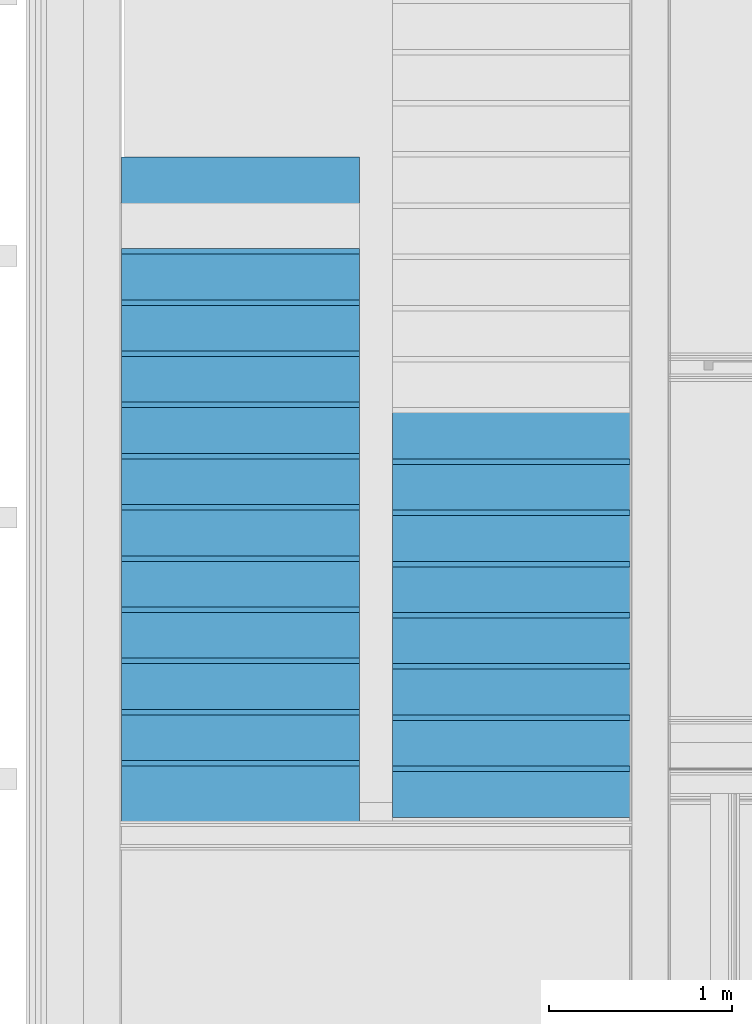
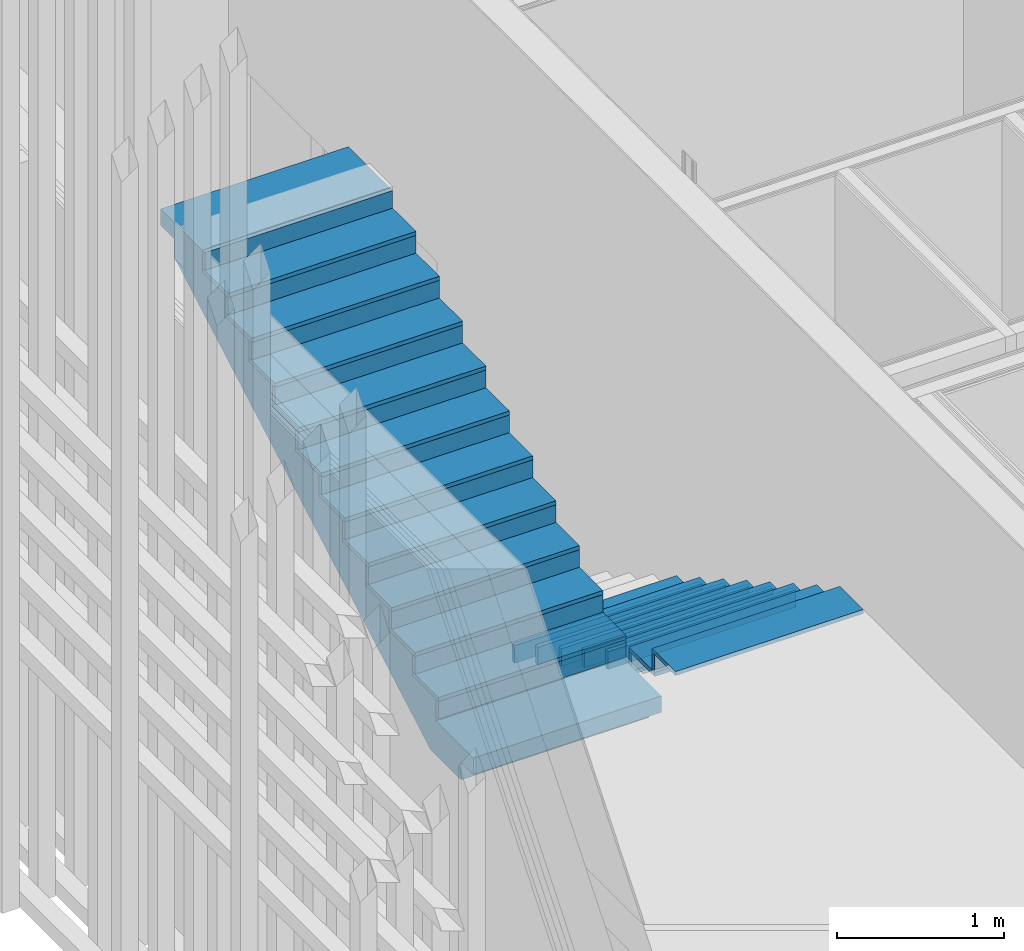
# One storey, part 76 of 260: 37 members, 2 elements without a shape of their own.
"""IFC2X3 building model written with IfcOpenShell, lengths in millimetres."""

from ifc_helpers import new_model, entity, si_unit, converted_unit, derived_unit, money_unit, direction, frame, origin_with_axes, place, context, subcontext, project, spatial, faceted_brep, material, type_object, element, aggregate, save


model = new_model("IFC2X3")

# Units and contexts
model_context = context("Model", 3, precision=0.01, world=origin_with_axes(), true_north=direction((0.0, 1.0)))
body_context = subcontext(model_context, "Body", "Model", "MODEL_VIEW")
ifc_project = project(units=[si_unit("LENGTHUNIT", "METRE", prefix="MILLI"), si_unit("AREAUNIT", "SQUARE_METRE"), si_unit("VOLUMEUNIT", "CUBIC_METRE"), converted_unit("PLANEANGLEUNIT", "DEGREE", entity("IfcPlaneAngleMeasure", 0.0174532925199), si_unit("PLANEANGLEUNIT", "RADIAN"), dimensions=[0, 0, 0, 0, 0, 0, 0]), money_unit("EUR"), converted_unit("TIMEUNIT", "Year", entity("IfcTimeMeasure", 31556926.0), si_unit("TIMEUNIT", "SECOND"), dimensions=[0, 0, 1, 0, 0, 0, 0]), si_unit("MASSUNIT", "GRAM", prefix="KILO"), si_unit("THERMODYNAMICTEMPERATUREUNIT", "DEGREE_CELSIUS"), si_unit("LUMINOUSINTENSITYUNIT", "LUMEN"), si_unit("ENERGYUNIT", "JOULE", prefix="MEGA"), derived_unit("THERMALCONDUCTANCEUNIT", [(si_unit("POWERUNIT", "WATT"), 1), (si_unit("LENGTHUNIT", "METRE"), -1), (si_unit("THERMODYNAMICTEMPERATUREUNIT", "KELVIN"), -1)]), derived_unit("SPECIFICHEATCAPACITYUNIT", [(si_unit("ENERGYUNIT", "JOULE"), 1), (si_unit("MASSUNIT", "GRAM", prefix="KILO"), -1), (si_unit("THERMODYNAMICTEMPERATUREUNIT", "KELVIN"), -1)]), derived_unit("MASSDENSITYUNIT", [(si_unit("MASSUNIT", "GRAM", prefix="KILO"), 1), (si_unit("VOLUMEUNIT", "CUBIC_METRE"), -1)])], contexts=[model_context])

# Site, building, storey
site_placement = place(None, origin_with_axes())
site = spatial("IfcSite", under=ifc_project, at=site_placement, Name="Kolde pst 67a", CompositionType="ELEMENT")
building_placement = place(site_placement, origin_with_axes())
building = spatial("IfcBuilding", under=site, at=building_placement, Name="Riigigümnaasium", CompositionType="ELEMENT")
storey_placement = place(building_placement, origin_with_axes())
storey = spatial("IfcBuildingStorey", under=building, at=storey_placement, Name="1. korrus", CompositionType="ELEMENT", Elevation=0.0)

# Stair, member
stair_1_placement = place(storey_placement, frame((1550.05635828, 52010.1463933, 2855.0), z_axis=(0.0, 0.0, 1.0), x_axis=(1.0, 0.0, 0.0)))
stair_1 = element("IfcStair", 1, at=stair_1_placement, inside=storey, Name="TREPP", ShapeType="NOTDEFINED")
ifc_material_1 = material(Name="_KANDETARIND - raudbetoon C25/30 vastavalt EK osale")
member_type_1 = type_object("IfcMemberType", Name="IfcMember", PredefinedType="USERDEFINED")
member_1_placement = place(stair_1_placement, origin_with_axes())
member_1 = element("IfcMember", 2, at=member_1_placement, type_object=member_type_1, material=ifc_material_1, Name="TT KONSTRUKTSIOON - 012", ObjectType="Stair Structure", context=body_context, shape_type="Brep", body=[
    faceted_brep([(0.0, 3170.0, 1461.65785045), (0.0, 3170.0, 1595.0), (0.0, 3330.0, 1595.0), (0.0, 3330.0, 1715.0), (0.0, 2830.0, 1715.0), (0.0, 2830.0, 1556.36363636), (0.0, 2550.0, 1556.36363636), (0.0, 2550.0, 1397.72727273), (0.0, 2270.0, 1397.72727273), (0.0, 2270.0, 1239.09090909), (0.0, 1990.0, 1239.09090909), (0.0, 1990.0, 1080.45454545), (0.0, 1710.0, 1080.45454545), (0.0, 1710.0, 921.818181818), (0.0, 1430.0, 921.818181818), (0.0, 1430.0, 763.181818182), (0.0, 1150.0, 763.181818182), (0.0, 1150.0, 604.545454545), (0.0, 870.0, 604.545454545), (0.0, 870.0, 445.909090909), (0.0, 590.0, 445.909090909), (0.0, 590.0, 287.272727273), (0.0, 310.0, 287.272727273), (0.0, 310.0, 128.636363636), (0.0, 30.0, 128.636363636), (0.0, 30.0, -30.0), (0.0, 0.0, -30.0), (0.0, -420.0, -30.0), (0.0, -420.0, -150.0), (0.0, -270.0, -150.0), (0.0, -270.0, -280.0), (0.0, 95.8990375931, -280.0), (0.0, 186.666666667, -228.574833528), (0.0, 280.0, -175.696045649), (0.0, 373.333333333, -122.817257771), (0.0, 466.666666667, -69.9384698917), (0.0, 560.0, -17.059682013), (0.0, 653.333333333, 35.8191058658), (0.0, 746.666666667, 88.6978937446), (0.0, 840.0, 141.576681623), (0.0, 933.333333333, 194.455469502), (0.0, 1026.66666667, 247.334257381), (0.0, 1120.0, 300.21304526), (0.0, 1213.33333333, 353.091833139), (0.0, 1306.66666667, 405.970621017), (0.0, 1400.0, 458.849408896), (0.0, 1493.33333333, 511.728196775), (0.0, 1586.66666667, 564.606984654), (0.0, 1680.0, 617.485772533), (0.0, 1773.33333333, 670.364560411), (0.0, 1866.66666667, 723.24334829), (0.0, 1960.0, 776.122136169), (0.0, 2053.33333333, 829.000924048), (0.0, 2146.66666667, 881.879711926), (0.0, 2240.0, 934.758499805), (0.0, 2333.33333333, 987.637287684), (0.0, 2426.66666667, 1040.51607556), (0.0, 2520.0, 1093.39486344), (0.0, 2613.33333333, 1146.27365132), (0.0, 2706.66666667, 1199.1524392), (0.0, 2800.0, 1252.03122708), (0.0, 2893.33333333, 1304.91001496), (0.0, 2986.66666667, 1357.78880284), (0.0, 3080.0, 1410.66759071), (-1300.0, 3170.0, 1461.65785045), (-1300.0, 3170.0, 1595.0), (-1300.0, 3330.0, 1595.0), (-1300.0, 3330.0, 1715.0), (-1300.0, 2830.0, 1715.0), (-1300.0, 2830.0, 1556.36363636), (-1300.0, 2550.0, 1556.36363636), (-1300.0, 2550.0, 1397.72727273), (-1300.0, 2270.0, 1397.72727273), (-1300.0, 2270.0, 1239.09090909), (-1300.0, 1990.0, 1239.09090909), (-1300.0, 1990.0, 1080.45454545), (-1300.0, 1710.0, 1080.45454545), (-1300.0, 1710.0, 921.818181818), (-1300.0, 1430.0, 921.818181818), (-1300.0, 1430.0, 763.181818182), (-1300.0, 1150.0, 763.181818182), (-1300.0, 1150.0, 604.545454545), (-1300.0, 870.0, 604.545454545), (-1300.0, 870.0, 445.909090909), (-1300.0, 590.0, 445.909090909), (-1300.0, 590.0, 287.272727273), (-1300.0, 310.0, 287.272727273), (-1300.0, 310.0, 128.636363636), (-1300.0, 30.0, 128.636363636), (-1300.0, 30.0, -30.0), (-1300.0, 0.0, -30.0), (-1300.0, -420.0, -30.0), (-1300.0, -420.0, -150.0), (-1300.0, -270.0, -150.0), (-1300.0, -270.0, -280.0), (-1300.0, 95.8990375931, -280.0), (-1300.0, 186.666666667, -228.574833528), (-1300.0, 280.0, -175.696045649), (-1300.0, 373.333333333, -122.817257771), (-1300.0, 466.666666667, -69.9384698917), (-1300.0, 560.0, -17.059682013), (-1300.0, 653.333333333, 35.8191058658), (-1300.0, 746.666666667, 88.6978937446), (-1300.0, 840.0, 141.576681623), (-1300.0, 933.333333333, 194.455469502), (-1300.0, 1026.66666667, 247.334257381), (-1300.0, 1120.0, 300.21304526), (-1300.0, 1213.33333333, 353.091833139), (-1300.0, 1306.66666667, 405.970621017), (-1300.0, 1400.0, 458.849408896), (-1300.0, 1493.33333333, 511.728196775), (-1300.0, 1586.66666667, 564.606984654), (-1300.0, 1680.0, 617.485772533), (-1300.0, 1773.33333333, 670.364560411), (-1300.0, 1866.66666667, 723.24334829), (-1300.0, 1960.0, 776.122136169), (-1300.0, 2053.33333333, 829.000924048), (-1300.0, 2146.66666667, 881.879711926), (-1300.0, 2240.0, 934.758499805), (-1300.0, 2333.33333333, 987.637287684), (-1300.0, 2426.66666667, 1040.51607556), (-1300.0, 2520.0, 1093.39486344), (-1300.0, 2613.33333333, 1146.27365132), (-1300.0, 2706.66666667, 1199.1524392), (-1300.0, 2800.0, 1252.03122708), (-1300.0, 2893.33333333, 1304.91001496), (-1300.0, 2986.66666667, 1357.78880284), (-1300.0, 3080.0, 1410.66759071)], [[[0, 1, 2, 3, 4, 5, 6, 7, 8, 9, 10, 11, 12, 13, 14, 15, 16, 17, 18, 19, 20, 21, 22, 23, 24, 25, 26, 27, 28, 29, 30, 31, 32, 33, 34, 35, 36, 37, 38, 39, 40, 41, 42, 43, 44, 45, 46, 47, 48, 49, 50, 51, 52, 53, 54, 55, 56, 57, 58, 59, 60, 61, 62, 63]], [[1, 0, 64, 65]], [[66, 2, 1, 65]], [[2, 66, 67, 3]], [[3, 67, 68, 4]], [[5, 4, 68, 69]], [[6, 5, 69, 70]], [[71, 7, 6, 70]], [[8, 7, 71, 72]], [[73, 9, 8, 72]], [[10, 9, 73, 74]], [[75, 11, 10, 74]], [[12, 11, 75, 76]], [[77, 13, 12, 76]], [[14, 13, 77, 78]], [[79, 15, 14, 78]], [[16, 15, 79, 80]], [[81, 17, 16, 80]], [[18, 17, 81, 82]], [[83, 19, 18, 82]], [[20, 19, 83, 84]], [[85, 21, 20, 84]], [[22, 21, 85, 86]], [[87, 23, 22, 86]], [[24, 23, 87, 88]], [[89, 25, 24, 88]], [[90, 91, 27, 26, 25, 89]], [[92, 28, 27, 91]], [[29, 28, 92, 93]], [[29, 93, 94, 30]], [[31, 30, 94, 95]], [[32, 31, 95, 96]], [[33, 32, 96, 97]], [[34, 33, 97, 98]], [[35, 34, 98, 99]], [[36, 35, 99, 100]], [[37, 36, 100, 101]], [[38, 37, 101, 102]], [[39, 38, 102, 103]], [[40, 39, 103, 104]], [[41, 40, 104, 105]], [[42, 41, 105, 106]], [[43, 42, 106, 107]], [[44, 43, 107, 108]], [[45, 44, 108, 109]], [[46, 45, 109, 110]], [[47, 46, 110, 111]], [[48, 47, 111, 112]], [[49, 48, 112, 113]], [[50, 49, 113, 114]], [[51, 50, 114, 115]], [[52, 51, 115, 116]], [[53, 52, 116, 117]], [[54, 53, 117, 118]], [[55, 54, 118, 119]], [[56, 55, 119, 120]], [[57, 56, 120, 121]], [[58, 57, 121, 122]], [[59, 58, 122, 123]], [[60, 59, 123, 124]], [[61, 60, 124, 125]], [[62, 61, 125, 126]], [[64, 0, 63, 62, 126, 127]], [[65, 64, 127, 126, 125, 124, 123, 122, 121, 120, 119, 118, 117, 116, 115, 114, 113, 112, 111, 110, 109, 108, 107, 106, 105, 104, 103, 102, 101, 100, 99, 98, 97, 96, 95, 94, 93, 92, 91, 90, 89, 88, 87, 86, 85, 84, 83, 82, 81, 80, 79, 78, 77, 76, 75, 74, 73, 72, 71, 70, 69, 68, 67, 66]]]),
])

# Stair, members
stair_2_placement = place(storey_placement, frame((1729.94042366, 56770.1026666, 0.0), z_axis=(0.0, 0.0, 1.0), x_axis=(1.0, 0.0, 0.0)))
stair_2 = element("IfcStair", 3, at=stair_2_placement, inside=storey, Name="TREPP", ShapeType="NOTDEFINED")
ifc_material_2 = material(Name="_VIIMISTLUSKIHT - viimistlus vastavalt SA osale")
member_type_2 = type_object("IfcMemberType", Name="IfcMember", PredefinedType="USERDEFINED")
member_2_placement = place(stair_2_placement, frame((650.0, -3080.0, 1873.33333333), z_axis=(0.0, 0.0, 1.0), x_axis=(-1.0, 0.0, 0.0)))
member_2 = element("IfcMember", 4, at=member_2_placement, type_object=member_type_2, material=ifc_material_2, Name="TV TÕUS - 187", ObjectType="Stair Riser", context=body_context, shape_type="Brep", body=[
    faceted_brep([(650.0, 0.0, 0.0), (650.0, 30.0, 0.0), (-650.0, 30.0, 0.0), (-650.0, 0.0, 0.0), (650.0, 0.0, -128.611111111), (650.0, 30.0, -128.611111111), (-650.0, 30.0, -128.611111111), (-650.0, 0.0, -128.611111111)], [[[0, 1, 2, 3]], [[0, 4, 5, 1]], [[1, 5, 6, 2]], [[3, 2, 6, 7]], [[4, 0, 3, 7]], [[5, 4, 7, 6]]]),
])
member_3_placement = place(stair_2_placement, frame((650.0, -3360.0, 2031.94444444), z_axis=(0.0, 0.0, 1.0), x_axis=(-1.0, 0.0, 0.0)))
member_3 = element("IfcMember", 5, at=member_3_placement, type_object=member_type_2, material=ifc_material_2, Name="TV TÕUS - 188", ObjectType="Stair Riser", context=body_context, shape_type="Brep", body=[
    faceted_brep([(650.0, 0.0, 0.0), (650.0, 30.0, 0.0), (-650.0, 30.0, 0.0), (-650.0, 0.0, 0.0), (650.0, 0.0, -128.611111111), (650.0, 30.0, -128.611111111), (-650.0, 30.0, -128.611111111), (-650.0, 0.0, -128.611111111)], [[[0, 1, 2, 3]], [[0, 4, 5, 1]], [[1, 5, 6, 2]], [[3, 2, 6, 7]], [[4, 0, 3, 7]], [[5, 4, 7, 6]]]),
])
member_4_placement = place(stair_2_placement, frame((650.0, -3640.0, 2190.55555556), z_axis=(0.0, 0.0, 1.0), x_axis=(-1.0, 0.0, 0.0)))
member_4 = element("IfcMember", 6, at=member_4_placement, type_object=member_type_2, material=ifc_material_2, Name="TV TÕUS - 189", ObjectType="Stair Riser", context=body_context, shape_type="Brep", body=[
    faceted_brep([(650.0, 0.0, 0.0), (650.0, 30.0, 0.0), (-650.0, 30.0, 0.0), (-650.0, 0.0, 0.0), (650.0, 0.0, -128.611111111), (650.0, 30.0, -128.611111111), (-650.0, 30.0, -128.611111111), (-650.0, 0.0, -128.611111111)], [[[0, 1, 2, 3]], [[0, 4, 5, 1]], [[1, 5, 6, 2]], [[3, 2, 6, 7]], [[4, 0, 3, 7]], [[5, 4, 7, 6]]]),
])
member_5_placement = place(stair_2_placement, frame((650.0, -3920.0, 2349.16666667), z_axis=(0.0, 0.0, 1.0), x_axis=(-1.0, 0.0, 0.0)))
member_5 = element("IfcMember", 7, at=member_5_placement, type_object=member_type_2, material=ifc_material_2, Name="TV TÕUS - 190", ObjectType="Stair Riser", context=body_context, shape_type="Brep", body=[
    faceted_brep([(650.0, 0.0, 0.0), (650.0, 30.0, 0.0), (-650.0, 30.0, 0.0), (-650.0, 0.0, 0.0), (650.0, 0.0, -128.611111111), (650.0, 30.0, -128.611111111), (-650.0, 30.0, -128.611111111), (-650.0, 0.0, -128.611111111)], [[[0, 1, 2, 3]], [[0, 4, 5, 1]], [[1, 5, 6, 2]], [[3, 2, 6, 7]], [[4, 0, 3, 7]], [[5, 4, 7, 6]]]),
])
member_6_placement = place(stair_2_placement, frame((650.0, -4200.0, 2507.77777778), z_axis=(0.0, 0.0, 1.0), x_axis=(-1.0, 0.0, 0.0)))
member_6 = element("IfcMember", 8, at=member_6_placement, type_object=member_type_2, material=ifc_material_2, Name="TV TÕUS - 191", ObjectType="Stair Riser", context=body_context, shape_type="Brep", body=[
    faceted_brep([(650.0, 0.0, 0.0), (650.0, 30.0, 0.0), (-650.0, 30.0, 0.0), (-650.0, 0.0, 0.0), (650.0, 0.0, -128.611111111), (650.0, 30.0, -128.611111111), (-650.0, 30.0, -128.611111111), (-650.0, 0.0, -128.611111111)], [[[0, 1, 2, 3]], [[0, 4, 5, 1]], [[1, 5, 6, 2]], [[3, 2, 6, 7]], [[4, 0, 3, 7]], [[5, 4, 7, 6]]]),
])
member_7_placement = place(stair_2_placement, frame((650.0, -4480.0, 2666.38888889), z_axis=(0.0, 0.0, 1.0), x_axis=(-1.0, 0.0, 0.0)))
member_7 = element("IfcMember", 9, at=member_7_placement, type_object=member_type_2, material=ifc_material_2, Name="TV TÕUS - 192", ObjectType="Stair Riser", context=body_context, shape_type="Brep", body=[
    faceted_brep([(650.0, 0.0, 0.0), (650.0, 30.0, 0.0), (-650.0, 30.0, 0.0), (-650.0, 0.0, 0.0), (650.0, 0.0, -128.611111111), (650.0, 30.0, -128.611111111), (-650.0, 30.0, -128.611111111), (-650.0, 0.0, -128.611111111)], [[[0, 1, 2, 3]], [[0, 4, 5, 1]], [[1, 5, 6, 2]], [[3, 2, 6, 7]], [[4, 0, 3, 7]], [[5, 4, 7, 6]]]),
])
member_8_placement = place(stair_2_placement, frame((650.0, -4760.0, 2825.0), z_axis=(0.0, 0.0, 1.0), x_axis=(-1.0, 0.0, 0.0)))
member_8 = element("IfcMember", 10, at=member_8_placement, type_object=member_type_2, material=ifc_material_2, Name="TV TÕUS - 193", ObjectType="Stair Riser", context=body_context, shape_type="Brep", body=[
    faceted_brep([(650.0, 0.0, 0.0), (650.0, 30.0, 0.0), (-650.0, 30.0, 0.0), (-650.0, 0.0, 0.0), (650.0, 0.0, -128.611111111), (650.0, 30.0, -128.611111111), (-650.0, 30.0, -128.611111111), (-650.0, 0.0, -128.611111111)], [[[0, 1, 2, 3]], [[0, 4, 5, 1]], [[1, 5, 6, 2]], [[3, 2, 6, 7]], [[4, 0, 3, 7]], [[5, 4, 7, 6]]]),
])

# Member
member_9_placement = place(stair_1_placement, frame((-650.0, 0.0, 128.636363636), z_axis=(0.0, 0.0, 1.0), x_axis=(1.0, 0.0, 0.0)))
member_9 = element("IfcMember", 11, at=member_9_placement, type_object=member_type_2, material=ifc_material_2, Name="TV TÕUS - 205", ObjectType="Stair Riser", context=body_context, shape_type="Brep", body=[
    faceted_brep([(650.0, 0.0, 0.0), (650.0, 30.0, 0.0), (-650.0, 30.0, 0.0), (-650.0, 0.0, 0.0), (650.0, 0.0, -128.636363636), (650.0, 30.0, -128.636363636), (-650.0, 30.0, -128.636363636), (-650.0, 0.0, -128.636363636)], [[[0, 1, 2, 3]], [[0, 4, 5, 1]], [[1, 5, 6, 2]], [[3, 2, 6, 7]], [[4, 0, 3, 7]], [[5, 4, 7, 6]]]),
])

member_10_placement = place(stair_1_placement, frame((-650.0, 280.0, 287.272727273), z_axis=(0.0, 0.0, 1.0), x_axis=(1.0, 0.0, 0.0)))
member_10 = element("IfcMember", 12, at=member_10_placement, type_object=member_type_2, material=ifc_material_2, Name="TV TÕUS - 206", ObjectType="Stair Riser", context=body_context, shape_type="Brep", body=[
    faceted_brep([(650.0, 0.0, 0.0), (650.0, 30.0, 0.0), (-650.0, 30.0, 0.0), (-650.0, 0.0, 0.0), (650.0, 0.0, -128.636363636), (650.0, 30.0, -128.636363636), (-650.0, 30.0, -128.636363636), (-650.0, 0.0, -128.636363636)], [[[0, 1, 2, 3]], [[0, 4, 5, 1]], [[1, 5, 6, 2]], [[3, 2, 6, 7]], [[4, 0, 3, 7]], [[5, 4, 7, 6]]]),
])

member_11_placement = place(stair_1_placement, frame((-650.0, 560.0, 445.909090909), z_axis=(0.0, 0.0, 1.0), x_axis=(1.0, 0.0, 0.0)))
member_11 = element("IfcMember", 13, at=member_11_placement, type_object=member_type_2, material=ifc_material_2, Name="TV TÕUS - 207", ObjectType="Stair Riser", context=body_context, shape_type="Brep", body=[
    faceted_brep([(650.0, 0.0, 0.0), (650.0, 30.0, 0.0), (-650.0, 30.0, 0.0), (-650.0, 0.0, 0.0), (650.0, 0.0, -128.636363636), (650.0, 30.0, -128.636363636), (-650.0, 30.0, -128.636363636), (-650.0, 0.0, -128.636363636)], [[[0, 1, 2, 3]], [[0, 4, 5, 1]], [[1, 5, 6, 2]], [[3, 2, 6, 7]], [[4, 0, 3, 7]], [[5, 4, 7, 6]]]),
])

member_12_placement = place(stair_1_placement, frame((-650.0, 840.0, 604.545454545), z_axis=(0.0, 0.0, 1.0), x_axis=(1.0, 0.0, 0.0)))
member_12 = element("IfcMember", 14, at=member_12_placement, type_object=member_type_2, material=ifc_material_2, Name="TV TÕUS - 208", ObjectType="Stair Riser", context=body_context, shape_type="Brep", body=[
    faceted_brep([(650.0, 0.0, 0.0), (650.0, 30.0, 0.0), (-650.0, 30.0, 0.0), (-650.0, 0.0, 0.0), (650.0, 0.0, -128.636363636), (650.0, 30.0, -128.636363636), (-650.0, 30.0, -128.636363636), (-650.0, 0.0, -128.636363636)], [[[0, 1, 2, 3]], [[0, 4, 5, 1]], [[1, 5, 6, 2]], [[3, 2, 6, 7]], [[4, 0, 3, 7]], [[5, 4, 7, 6]]]),
])

member_13_placement = place(stair_1_placement, frame((-650.0, 1120.0, 763.181818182), z_axis=(0.0, 0.0, 1.0), x_axis=(1.0, 0.0, 0.0)))
member_13 = element("IfcMember", 15, at=member_13_placement, type_object=member_type_2, material=ifc_material_2, Name="TV TÕUS - 209", ObjectType="Stair Riser", context=body_context, shape_type="Brep", body=[
    faceted_brep([(650.0, 0.0, 0.0), (650.0, 30.0, 0.0), (-650.0, 30.0, 0.0), (-650.0, 0.0, 0.0), (650.0, 0.0, -128.636363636), (650.0, 30.0, -128.636363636), (-650.0, 30.0, -128.636363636), (-650.0, 0.0, -128.636363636)], [[[0, 1, 2, 3]], [[0, 4, 5, 1]], [[1, 5, 6, 2]], [[3, 2, 6, 7]], [[4, 0, 3, 7]], [[5, 4, 7, 6]]]),
])

member_14_placement = place(stair_1_placement, frame((-650.0, 1400.0, 921.818181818), z_axis=(0.0, 0.0, 1.0), x_axis=(1.0, 0.0, 0.0)))
member_14 = element("IfcMember", 16, at=member_14_placement, type_object=member_type_2, material=ifc_material_2, Name="TV TÕUS - 210", ObjectType="Stair Riser", context=body_context, shape_type="Brep", body=[
    faceted_brep([(650.0, 0.0, 0.0), (650.0, 30.0, 0.0), (-650.0, 30.0, 0.0), (-650.0, 0.0, 0.0), (650.0, 0.0, -128.636363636), (650.0, 30.0, -128.636363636), (-650.0, 30.0, -128.636363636), (-650.0, 0.0, -128.636363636)], [[[0, 1, 2, 3]], [[0, 4, 5, 1]], [[1, 5, 6, 2]], [[3, 2, 6, 7]], [[4, 0, 3, 7]], [[5, 4, 7, 6]]]),
])

member_15_placement = place(stair_1_placement, frame((-650.0, 1680.0, 1080.45454545), z_axis=(0.0, 0.0, 1.0), x_axis=(1.0, 0.0, 0.0)))
member_15 = element("IfcMember", 17, at=member_15_placement, type_object=member_type_2, material=ifc_material_2, Name="TV TÕUS - 211", ObjectType="Stair Riser", context=body_context, shape_type="Brep", body=[
    faceted_brep([(650.0, 0.0, 0.0), (650.0, 30.0, 0.0), (-650.0, 30.0, 0.0), (-650.0, 0.0, 0.0), (650.0, 0.0, -128.636363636), (650.0, 30.0, -128.636363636), (-650.0, 30.0, -128.636363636), (-650.0, 0.0, -128.636363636)], [[[0, 1, 2, 3]], [[0, 4, 5, 1]], [[1, 5, 6, 2]], [[3, 2, 6, 7]], [[4, 0, 3, 7]], [[5, 4, 7, 6]]]),
])

member_16_placement = place(stair_1_placement, frame((-650.0, 1960.0, 1239.09090909), z_axis=(0.0, 0.0, 1.0), x_axis=(1.0, 0.0, 0.0)))
member_16 = element("IfcMember", 18, at=member_16_placement, type_object=member_type_2, material=ifc_material_2, Name="TV TÕUS - 212", ObjectType="Stair Riser", context=body_context, shape_type="Brep", body=[
    faceted_brep([(650.0, 0.0, 0.0), (650.0, 30.0, 0.0), (-650.0, 30.0, 0.0), (-650.0, 0.0, 0.0), (650.0, 0.0, -128.636363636), (650.0, 30.0, -128.636363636), (-650.0, 30.0, -128.636363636), (-650.0, 0.0, -128.636363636)], [[[0, 1, 2, 3]], [[0, 4, 5, 1]], [[1, 5, 6, 2]], [[3, 2, 6, 7]], [[4, 0, 3, 7]], [[5, 4, 7, 6]]]),
])

member_17_placement = place(stair_1_placement, frame((-650.0, 2240.0, 1397.72727273), z_axis=(0.0, 0.0, 1.0), x_axis=(1.0, 0.0, 0.0)))
member_17 = element("IfcMember", 19, at=member_17_placement, type_object=member_type_2, material=ifc_material_2, Name="TV TÕUS - 213", ObjectType="Stair Riser", context=body_context, shape_type="Brep", body=[
    faceted_brep([(650.0, 0.0, 0.0), (650.0, 30.0, 0.0), (-650.0, 30.0, 0.0), (-650.0, 0.0, 0.0), (650.0, 0.0, -128.636363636), (650.0, 30.0, -128.636363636), (-650.0, 30.0, -128.636363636), (-650.0, 0.0, -128.636363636)], [[[0, 1, 2, 3]], [[0, 4, 5, 1]], [[1, 5, 6, 2]], [[3, 2, 6, 7]], [[4, 0, 3, 7]], [[5, 4, 7, 6]]]),
])

member_18_placement = place(stair_1_placement, frame((-650.0, 2520.0, 1556.36363636), z_axis=(0.0, 0.0, 1.0), x_axis=(1.0, 0.0, 0.0)))
member_18 = element("IfcMember", 20, at=member_18_placement, type_object=member_type_2, material=ifc_material_2, Name="TV TÕUS - 223", ObjectType="Stair Riser", context=body_context, shape_type="Brep", body=[
    faceted_brep([(650.0, 0.0, 0.0), (650.0, 30.0, 0.0), (-650.0, 30.0, 0.0), (-650.0, 0.0, 0.0), (650.0, 0.0, -128.636363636), (650.0, 30.0, -128.636363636), (-650.0, 30.0, -128.636363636), (-650.0, 0.0, -128.636363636)], [[[0, 1, 2, 3]], [[0, 4, 5, 1]], [[1, 5, 6, 2]], [[3, 2, 6, 7]], [[4, 0, 3, 7]], [[5, 4, 7, 6]]]),
])

member_19_placement = place(stair_1_placement, frame((-650.0, 2800.0, 1715.0), z_axis=(0.0, 0.0, 1.0), x_axis=(1.0, 0.0, 0.0)))
member_19 = element("IfcMember", 21, at=member_19_placement, type_object=member_type_2, material=ifc_material_2, Name="TV TÕUS - 224", ObjectType="Stair Riser", context=body_context, shape_type="Brep", body=[
    faceted_brep([(650.0, 0.0, 0.0), (650.0, 30.0, 0.0), (-650.0, 30.0, 0.0), (-650.0, 0.0, 0.0), (650.0, 0.0, -128.636363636), (650.0, 30.0, -128.636363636), (-650.0, 30.0, -128.636363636), (-650.0, 0.0, -128.636363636)], [[[0, 1, 2, 3]], [[0, 4, 5, 1]], [[1, 5, 6, 2]], [[3, 2, 6, 7]], [[4, 0, 3, 7]], [[5, 4, 7, 6]]]),
])

member_type_3 = type_object("IfcMemberType", Name="IfcMember", PredefinedType="USERDEFINED")
member_20_placement = place(stair_2_placement, frame((650.0, -2800.0, 1744.72222222), z_axis=(0.0, 0.0, 1.0), x_axis=(-1.0, 0.0, 0.0)))
member_20 = element("IfcMember", 22, at=member_20_placement, type_object=member_type_3, material=ifc_material_2, Name="TV ASTE - 187", ObjectType="Stair Tread", context=body_context, shape_type="Brep", body=[
    faceted_brep([(-650.0, 0.0, -30.0), (650.0, 0.0, -30.0), (650.0, 0.0, 0.0), (-650.0, 0.0, 0.0), (-650.0, 310.0, -30.0), (650.0, 310.0, -30.0), (650.0, 310.0, 0.0), (-650.0, 310.0, 0.0)], [[[0, 1, 2, 3]], [[0, 4, 5, 1]], [[1, 5, 6, 2]], [[3, 2, 6, 7]], [[4, 0, 3, 7]], [[5, 4, 7, 6]]]),
])

member_21_placement = place(stair_2_placement, frame((650.0, -3080.0, 1903.33333333), z_axis=(0.0, 0.0, 1.0), x_axis=(-1.0, 0.0, 0.0)))
member_21 = element("IfcMember", 23, at=member_21_placement, type_object=member_type_3, material=ifc_material_2, Name="TV ASTE - 188", ObjectType="Stair Tread", context=body_context, shape_type="Brep", body=[
    faceted_brep([(-650.0, 0.0, -30.0), (650.0, 0.0, -30.0), (650.0, 0.0, 0.0), (-650.0, 0.0, 0.0), (-650.0, 310.0, -30.0), (650.0, 310.0, -30.0), (650.0, 310.0, 0.0), (-650.0, 310.0, 0.0)], [[[0, 1, 2, 3]], [[0, 4, 5, 1]], [[1, 5, 6, 2]], [[3, 2, 6, 7]], [[4, 0, 3, 7]], [[5, 4, 7, 6]]]),
])

member_22_placement = place(stair_2_placement, frame((650.0, -3360.0, 2061.94444444), z_axis=(0.0, 0.0, 1.0), x_axis=(-1.0, 0.0, 0.0)))
member_22 = element("IfcMember", 24, at=member_22_placement, type_object=member_type_3, material=ifc_material_2, Name="TV ASTE - 189", ObjectType="Stair Tread", context=body_context, shape_type="Brep", body=[
    faceted_brep([(-650.0, 0.0, -30.0), (650.0, 0.0, -30.0), (650.0, 0.0, 0.0), (-650.0, 0.0, 0.0), (-650.0, 310.0, -30.0), (650.0, 310.0, -30.0), (650.0, 310.0, 0.0), (-650.0, 310.0, 0.0)], [[[0, 1, 2, 3]], [[0, 4, 5, 1]], [[1, 5, 6, 2]], [[3, 2, 6, 7]], [[4, 0, 3, 7]], [[5, 4, 7, 6]]]),
])

member_23_placement = place(stair_2_placement, frame((650.0, -3640.0, 2220.55555556), z_axis=(0.0, 0.0, 1.0), x_axis=(-1.0, 0.0, 0.0)))
member_23 = element("IfcMember", 25, at=member_23_placement, type_object=member_type_3, material=ifc_material_2, Name="TV ASTE - 190", ObjectType="Stair Tread", context=body_context, shape_type="Brep", body=[
    faceted_brep([(-650.0, 0.0, -30.0), (650.0, 0.0, -30.0), (650.0, 0.0, 0.0), (-650.0, 0.0, 0.0), (-650.0, 310.0, -30.0), (650.0, 310.0, -30.0), (650.0, 310.0, 0.0), (-650.0, 310.0, 0.0)], [[[0, 1, 2, 3]], [[0, 4, 5, 1]], [[1, 5, 6, 2]], [[3, 2, 6, 7]], [[4, 0, 3, 7]], [[5, 4, 7, 6]]]),
])

member_24_placement = place(stair_2_placement, frame((650.0, -3920.0, 2379.16666667), z_axis=(0.0, 0.0, 1.0), x_axis=(-1.0, 0.0, 0.0)))
member_24 = element("IfcMember", 26, at=member_24_placement, type_object=member_type_3, material=ifc_material_2, Name="TV ASTE - 191", ObjectType="Stair Tread", context=body_context, shape_type="Brep", body=[
    faceted_brep([(-650.0, 0.0, -30.0), (650.0, 0.0, -30.0), (650.0, 0.0, 0.0), (-650.0, 0.0, 0.0), (-650.0, 310.0, -30.0), (650.0, 310.0, -30.0), (650.0, 310.0, 0.0), (-650.0, 310.0, 0.0)], [[[0, 1, 2, 3]], [[0, 4, 5, 1]], [[1, 5, 6, 2]], [[3, 2, 6, 7]], [[4, 0, 3, 7]], [[5, 4, 7, 6]]]),
])

member_25_placement = place(stair_2_placement, frame((650.0, -4200.0, 2537.77777778), z_axis=(0.0, 0.0, 1.0), x_axis=(-1.0, 0.0, 0.0)))
member_25 = element("IfcMember", 27, at=member_25_placement, type_object=member_type_3, material=ifc_material_2, Name="TV ASTE - 192", ObjectType="Stair Tread", context=body_context, shape_type="Brep", body=[
    faceted_brep([(-650.0, 0.0, -30.0), (650.0, 0.0, -30.0), (650.0, 0.0, 0.0), (-650.0, 0.0, 0.0), (-650.0, 310.0, -30.0), (650.0, 310.0, -30.0), (650.0, 310.0, 0.0), (-650.0, 310.0, 0.0)], [[[0, 1, 2, 3]], [[0, 4, 5, 1]], [[1, 5, 6, 2]], [[3, 2, 6, 7]], [[4, 0, 3, 7]], [[5, 4, 7, 6]]]),
])

member_26_placement = place(stair_2_placement, frame((650.0, -4480.0, 2696.38888889), z_axis=(0.0, 0.0, 1.0), x_axis=(-1.0, 0.0, 0.0)))
member_26 = element("IfcMember", 28, at=member_26_placement, type_object=member_type_3, material=ifc_material_2, Name="TV ASTE - 193", ObjectType="Stair Tread", context=body_context, shape_type="Brep", body=[
    faceted_brep([(-650.0, 0.0, -30.0), (650.0, 0.0, -30.0), (650.0, 0.0, 0.0), (-650.0, 0.0, 0.0), (-650.0, 310.0, -30.0), (650.0, 310.0, -30.0), (650.0, 310.0, 0.0), (-650.0, 310.0, 0.0)], [[[0, 1, 2, 3]], [[0, 4, 5, 1]], [[1, 5, 6, 2]], [[3, 2, 6, 7]], [[4, 0, 3, 7]], [[5, 4, 7, 6]]]),
])

member_27_placement = place(stair_2_placement, frame((650.0, -4760.0, 2855.0), z_axis=(0.0, 0.0, 1.0), x_axis=(-1.0, 0.0, 0.0)))
member_27 = element("IfcMember", 29, at=member_27_placement, type_object=member_type_3, material=ifc_material_2, Name="TV ASTE - 194", ObjectType="Stair Tread", context=body_context, shape_type="Brep", body=[
    faceted_brep([(-650.0, 0.0, -30.0), (650.0, 0.0, -30.0), (650.0, 0.0, 0.0), (-650.0, 0.0, 0.0), (-650.0, 280.0, -30.0), (650.0, 280.0, -30.0), (650.0, 280.0, 0.0), (-650.0, 280.0, 0.0)], [[[0, 1, 2, 3]], [[0, 4, 5, 1]], [[1, 5, 6, 2]], [[3, 2, 6, 7]], [[4, 0, 3, 7]], [[5, 4, 7, 6]]]),
])

aggregate(stair_2, [member_2, member_3, member_4, member_5, member_6, member_7, member_8, member_20, member_21, member_22, member_23, member_24, member_25, member_26, member_27])

member_28_placement = place(stair_1_placement, frame((-650.0, 0.0, 158.636363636), z_axis=(0.0, 0.0, 1.0), x_axis=(1.0, 0.0, 0.0)))
member_28 = element("IfcMember", 30, at=member_28_placement, type_object=member_type_3, material=ifc_material_2, Name="TV ASTE - 206", ObjectType="Stair Tread", context=body_context, shape_type="Brep", body=[
    faceted_brep([(-650.0, 0.0, -30.0), (650.0, 0.0, -30.0), (650.0, 0.0, 0.0), (-650.0, 0.0, 0.0), (-650.0, 310.0, -30.0), (650.0, 310.0, -30.0), (650.0, 310.0, 0.0), (-650.0, 310.0, 0.0)], [[[0, 1, 2, 3]], [[0, 4, 5, 1]], [[1, 5, 6, 2]], [[3, 2, 6, 7]], [[4, 0, 3, 7]], [[5, 4, 7, 6]]]),
])

member_29_placement = place(stair_1_placement, frame((-650.0, 280.0, 317.272727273), z_axis=(0.0, 0.0, 1.0), x_axis=(1.0, 0.0, 0.0)))
member_29 = element("IfcMember", 31, at=member_29_placement, type_object=member_type_3, material=ifc_material_2, Name="TV ASTE - 207", ObjectType="Stair Tread", context=body_context, shape_type="Brep", body=[
    faceted_brep([(-650.0, 0.0, -30.0), (650.0, 0.0, -30.0), (650.0, 0.0, 0.0), (-650.0, 0.0, 0.0), (-650.0, 310.0, -30.0), (650.0, 310.0, -30.0), (650.0, 310.0, 0.0), (-650.0, 310.0, 0.0)], [[[0, 1, 2, 3]], [[0, 4, 5, 1]], [[1, 5, 6, 2]], [[3, 2, 6, 7]], [[4, 0, 3, 7]], [[5, 4, 7, 6]]]),
])

member_30_placement = place(stair_1_placement, frame((-650.0, 560.0, 475.909090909), z_axis=(0.0, 0.0, 1.0), x_axis=(1.0, 0.0, 0.0)))
member_30 = element("IfcMember", 32, at=member_30_placement, type_object=member_type_3, material=ifc_material_2, Name="TV ASTE - 208", ObjectType="Stair Tread", context=body_context, shape_type="Brep", body=[
    faceted_brep([(-650.0, 0.0, -30.0), (650.0, 0.0, -30.0), (650.0, 0.0, 0.0), (-650.0, 0.0, 0.0), (-650.0, 310.0, -30.0), (650.0, 310.0, -30.0), (650.0, 310.0, 0.0), (-650.0, 310.0, 0.0)], [[[0, 1, 2, 3]], [[0, 4, 5, 1]], [[1, 5, 6, 2]], [[3, 2, 6, 7]], [[4, 0, 3, 7]], [[5, 4, 7, 6]]]),
])

member_31_placement = place(stair_1_placement, frame((-650.0, 840.0, 634.545454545), z_axis=(0.0, 0.0, 1.0), x_axis=(1.0, 0.0, 0.0)))
member_31 = element("IfcMember", 33, at=member_31_placement, type_object=member_type_3, material=ifc_material_2, Name="TV ASTE - 209", ObjectType="Stair Tread", context=body_context, shape_type="Brep", body=[
    faceted_brep([(-650.0, 0.0, -30.0), (650.0, 0.0, -30.0), (650.0, 0.0, 0.0), (-650.0, 0.0, 0.0), (-650.0, 310.0, -30.0), (650.0, 310.0, -30.0), (650.0, 310.0, 0.0), (-650.0, 310.0, 0.0)], [[[0, 1, 2, 3]], [[0, 4, 5, 1]], [[1, 5, 6, 2]], [[3, 2, 6, 7]], [[4, 0, 3, 7]], [[5, 4, 7, 6]]]),
])

member_32_placement = place(stair_1_placement, frame((-650.0, 1120.0, 793.181818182), z_axis=(0.0, 0.0, 1.0), x_axis=(1.0, 0.0, 0.0)))
member_32 = element("IfcMember", 34, at=member_32_placement, type_object=member_type_3, material=ifc_material_2, Name="TV ASTE - 210", ObjectType="Stair Tread", context=body_context, shape_type="Brep", body=[
    faceted_brep([(-650.0, 0.0, -30.0), (650.0, 0.0, -30.0), (650.0, 0.0, 0.0), (-650.0, 0.0, 0.0), (-650.0, 310.0, -30.0), (650.0, 310.0, -30.0), (650.0, 310.0, 0.0), (-650.0, 310.0, 0.0)], [[[0, 1, 2, 3]], [[0, 4, 5, 1]], [[1, 5, 6, 2]], [[3, 2, 6, 7]], [[4, 0, 3, 7]], [[5, 4, 7, 6]]]),
])

member_33_placement = place(stair_1_placement, frame((-650.0, 1400.0, 951.818181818), z_axis=(0.0, 0.0, 1.0), x_axis=(1.0, 0.0, 0.0)))
member_33 = element("IfcMember", 35, at=member_33_placement, type_object=member_type_3, material=ifc_material_2, Name="TV ASTE - 211", ObjectType="Stair Tread", context=body_context, shape_type="Brep", body=[
    faceted_brep([(-650.0, 0.0, -30.0), (650.0, 0.0, -30.0), (650.0, 0.0, 0.0), (-650.0, 0.0, 0.0), (-650.0, 310.0, -30.0), (650.0, 310.0, -30.0), (650.0, 310.0, 0.0), (-650.0, 310.0, 0.0)], [[[0, 1, 2, 3]], [[0, 4, 5, 1]], [[1, 5, 6, 2]], [[3, 2, 6, 7]], [[4, 0, 3, 7]], [[5, 4, 7, 6]]]),
])

member_34_placement = place(stair_1_placement, frame((-650.0, 1680.0, 1110.45454545), z_axis=(0.0, 0.0, 1.0), x_axis=(1.0, 0.0, 0.0)))
member_34 = element("IfcMember", 36, at=member_34_placement, type_object=member_type_3, material=ifc_material_2, Name="TV ASTE - 212", ObjectType="Stair Tread", context=body_context, shape_type="Brep", body=[
    faceted_brep([(-650.0, 0.0, -30.0), (650.0, 0.0, -30.0), (650.0, 0.0, 0.0), (-650.0, 0.0, 0.0), (-650.0, 310.0, -30.0), (650.0, 310.0, -30.0), (650.0, 310.0, 0.0), (-650.0, 310.0, 0.0)], [[[0, 1, 2, 3]], [[0, 4, 5, 1]], [[1, 5, 6, 2]], [[3, 2, 6, 7]], [[4, 0, 3, 7]], [[5, 4, 7, 6]]]),
])

member_35_placement = place(stair_1_placement, frame((-650.0, 1960.0, 1269.09090909), z_axis=(0.0, 0.0, 1.0), x_axis=(1.0, 0.0, 0.0)))
member_35 = element("IfcMember", 37, at=member_35_placement, type_object=member_type_3, material=ifc_material_2, Name="TV ASTE - 213", ObjectType="Stair Tread", context=body_context, shape_type="Brep", body=[
    faceted_brep([(-650.0, 0.0, -30.0), (650.0, 0.0, -30.0), (650.0, 0.0, 0.0), (-650.0, 0.0, 0.0), (-650.0, 310.0, -30.0), (650.0, 310.0, -30.0), (650.0, 310.0, 0.0), (-650.0, 310.0, 0.0)], [[[0, 1, 2, 3]], [[0, 4, 5, 1]], [[1, 5, 6, 2]], [[3, 2, 6, 7]], [[4, 0, 3, 7]], [[5, 4, 7, 6]]]),
])

member_36_placement = place(stair_1_placement, frame((-650.0, 2240.0, 1427.72727273), z_axis=(0.0, 0.0, 1.0), x_axis=(1.0, 0.0, 0.0)))
member_36 = element("IfcMember", 38, at=member_36_placement, type_object=member_type_3, material=ifc_material_2, Name="TV ASTE - 214", ObjectType="Stair Tread", context=body_context, shape_type="Brep", body=[
    faceted_brep([(-650.0, 0.0, -30.0), (650.0, 0.0, -30.0), (650.0, 0.0, 0.0), (-650.0, 0.0, 0.0), (-650.0, 310.0, -30.0), (650.0, 310.0, -30.0), (650.0, 310.0, 0.0), (-650.0, 310.0, 0.0)], [[[0, 1, 2, 3]], [[0, 4, 5, 1]], [[1, 5, 6, 2]], [[3, 2, 6, 7]], [[4, 0, 3, 7]], [[5, 4, 7, 6]]]),
])

member_37_placement = place(stair_1_placement, frame((-650.0, 2520.0, 1586.36363636), z_axis=(0.0, 0.0, 1.0), x_axis=(1.0, 0.0, 0.0)))
member_37 = element("IfcMember", 39, at=member_37_placement, type_object=member_type_3, material=ifc_material_2, Name="TV ASTE - 224", ObjectType="Stair Tread", context=body_context, shape_type="Brep", body=[
    faceted_brep([(-650.0, 0.0, -30.0), (650.0, 0.0, -30.0), (650.0, 0.0, 0.0), (-650.0, 0.0, 0.0), (-650.0, 310.0, -30.0), (650.0, 310.0, -30.0), (650.0, 310.0, 0.0), (-650.0, 310.0, 0.0)], [[[0, 1, 2, 3]], [[0, 4, 5, 1]], [[1, 5, 6, 2]], [[3, 2, 6, 7]], [[4, 0, 3, 7]], [[5, 4, 7, 6]]]),
])

aggregate(stair_1, [member_1, member_9, member_10, member_11, member_12, member_13, member_14, member_15, member_16, member_17, member_18, member_19, member_28, member_29, member_30, member_31, member_32, member_33, member_34, member_35, member_36, member_37])

save(model, "model.ifc")
